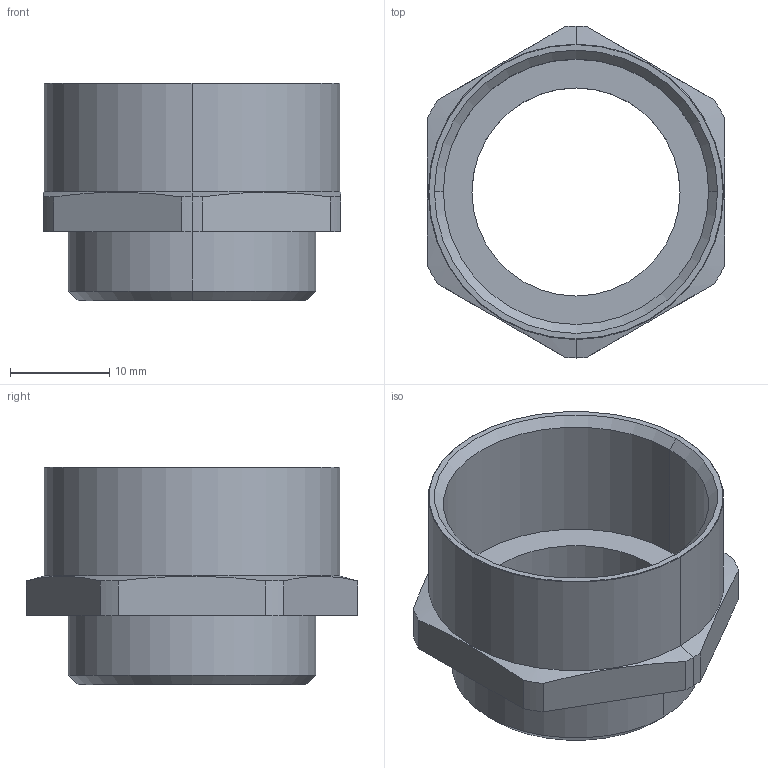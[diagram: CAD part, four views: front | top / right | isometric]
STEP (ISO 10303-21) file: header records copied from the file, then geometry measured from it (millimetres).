
FILE_DESCRIPTION (( 'STEP AP203' ), '1' );
FILE_NAME ('06321M25MU.STEP', '2006-05-22T13:42:56', ( ' ' ), ( '' ), 'SwSTEP 2.0', 'SolidWorks 2005278', '' );
FILE_SCHEMA (( 'CONFIG_CONTROL_DESIGN' ));
Length unit declared in the file: millimetre
Products named in the file (1): 06321M25MU
Bounding box: 30 x 33.5 x 22 mm (x, y, z)
Volume: 3567.9 mm3; surface area: 4414.3 mm2
Topology: 1 solids, 1 shells, 72 faces, 184 edges, 119 vertices
Faces by surface type: plane 47, cylinder 15, cone 10
Entity records: 2278 total; most frequent: CARTESIAN_POINT 426, ORIENTED_EDGE 368, DIRECTION 363, EDGE_CURVE 184, VECTOR 139, LINE 139, VERTEX_POINT 119, AXIS2_PLACEMENT_3D 112
